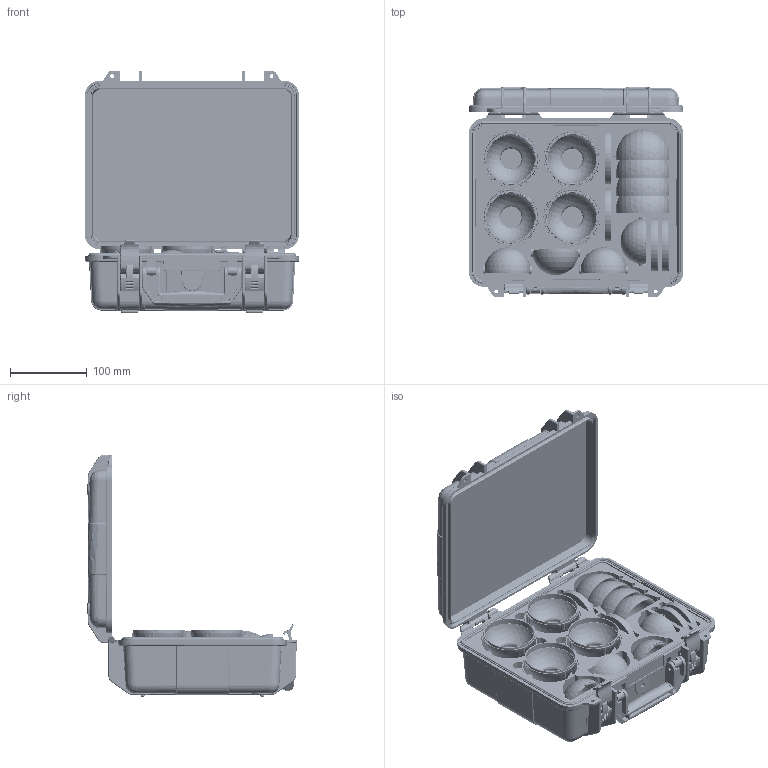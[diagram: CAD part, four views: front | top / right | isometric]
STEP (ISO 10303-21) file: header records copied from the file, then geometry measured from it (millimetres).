
FILE_DESCRIPTION(('FreeCAD Model'),'2;1');
FILE_NAME('Open CASCADE Shape Model','2024-08-30T09:20:51',( 'Lukas Balthasar Pank'),('Astera LED Technology GmbH'), 'Open CASCADE STEP processor 7.6','FreeCAD','Unknown');
FILE_SCHEMA(('AUTOMOTIVE_DESIGN { 1 0 10303 214 1 1 1 1 }'));
Length unit declared in the file: millimetre
Products named in the file (66): FP7-ACCCSE-KIT_LunaBulb Accessory Kit_3Dstep_V2; Case-Foam; LunaSnoot; LunaReflector; reflector cup asm; LunaDiffuser; LunaShade; MEC34367-Lunashade-diffusion; MEC34368-shade-wihte; MEC34371-shade-translucence; Case; Bottom_box; Cover_Box; Latch; Latch-A; handle; LunaLens; Lens asm; Case Foam Top
Assembly tree (107 placements, depth 4):
  FP7-ACCCSE-KIT_LunaBulb Accessory Kit_3Dstep_V2
    Case-Foam
    LunaSnoot  x7
    LunaReflector
      reflector cup asm
      reflector cup asm
    LunaDiffuser  x4
    LunaReflector
      reflector cup asm
      reflector cup asm
    LunaReflector
      reflector cup asm
      reflector cup asm
    LunaReflector
      reflector cup asm
      reflector cup asm
    LunaShade
      MEC34367-Lunashade-diffusion
      MEC34368-shade-wihte
      MEC34371-shade-translucence
    LunaShade
      MEC34367-Lunashade-diffusion
      MEC34368-shade-wihte
      MEC34371-shade-translucence
    LunaShade
      MEC34367-Lunashade-diffusion
      MEC34368-shade-wihte
      MEC34371-shade-translucence
    Case
      Bottom_box
      Cover_Box
        Cover_Box
      Latch
        Latch
        Latch
        Latch
        Latch
        Latch
        Latch
        Latch
        Latch
        Latch
        Latch
        Latch
        Latch
        Latch
        Latch
        Latch
        Latch
        Latch
        Latch
        Latch
        Latch
        Latch
        Latch
        Latch
        Latch
      Latch-A
        Latch-A
        Latch-A
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Bounding box: 280.25 x 273.51 x 316.5 mm (x, y, z)
Volume: 3235295.5 mm3; surface area: 1506660.8 mm2
Topology: 61 solids, 90 shells, 5498 faces, 14691 edges, 9304 vertices
Faces by surface type: plane 2177, cylinder 1439, bspline 714, cone 634, torus 360, sphere 166, revolution 8
Entity records: 159840 total; most frequent: CARTESIAN_POINT 79565, ORIENTED_EDGE 17550, DIRECTION 13351, EDGE_CURVE 8945, VERTEX_POINT 5611, AXIS2_PLACEMENT_3D 4958, FACE_BOUND 3496, EDGE_LOOP 3496
